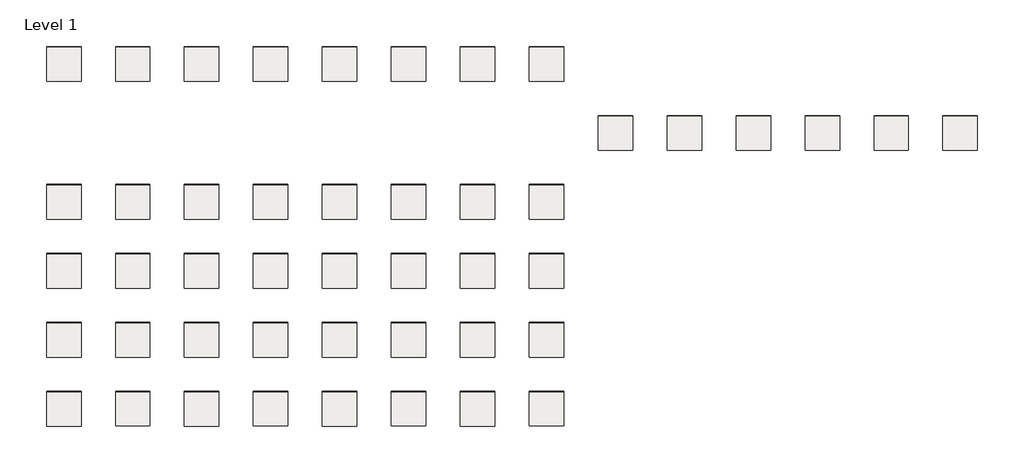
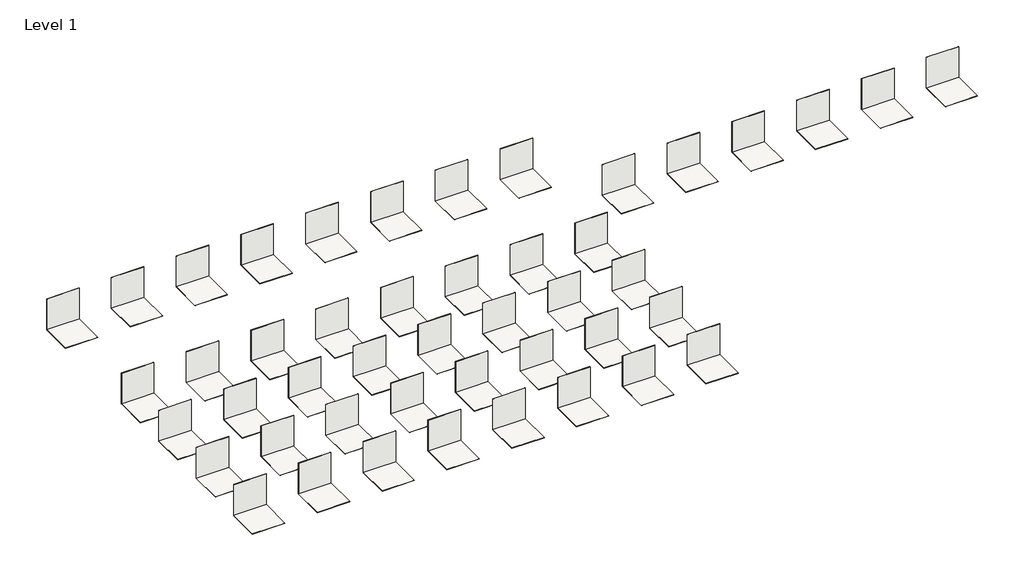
# One storey: 92 coverings.
"""IFC4 building model written with IfcOpenShell, lengths in millimetres."""

from ifc_helpers import new_model, si_unit, frame, origin, origin_with_axes, place, context, project, spatial, polyline, outline, extrude, element, save

model = new_model("IFC4")

# Units and contexts
model_context = context("Model", 3, world=origin())
ifc_project = project(units=[si_unit("LENGTHUNIT", "METRE", prefix="MILLI")], contexts=[model_context])

# Site, building, storey
site = spatial("IfcSite", under=ifc_project)
building = spatial("IfcBuilding", under=site)
storey = spatial("IfcBuildingStorey", under=building, Name="Level 1", Elevation=0.0)

# Coverings
placement = place(None, origin())
element("IfcCovering", 1, ObjectType="REVIGRÉS-LOCUS-BASE-9.7x9.7-SILK-ALLOY", at=placement, inside=storey, context=model_context, shape_type="SweptSolid", body=[
    extrude(outline(polyline([(2948.642714, 3103.8257974), (1948.642714, 3103.8257974), (1948.642714, 3112.3257974), (2948.642714, 3112.3257974), (2948.642714, 3103.8257974)])), origin_with_axes(), (0.0, 0.0, 1.0), 1000.0),
])
element("IfcCovering", 2, ObjectType="REVIGRÉS-LOCUS-BASE-9.7x9.7-SILK-BONE", at=placement, inside=storey, context=model_context, shape_type="SweptSolid", body=[
    extrude(outline(polyline([(6948.642714, 3103.8257974), (5948.642714, 3103.8257974), (5948.642714, 3112.3257974), (6948.642714, 3112.3257974), (6948.642714, 3103.8257974)])), origin_with_axes(), (0.0, 0.0, 1.0), 1000.0),
])
element("IfcCovering", 3, ObjectType="REVIGRÉS-LOCUS-BASE-9.7x9.7-SILK-GRIS", at=placement, inside=storey, context=model_context, shape_type="SweptSolid", body=[
    extrude(outline(polyline([(10948.642714, 3103.8257974), (9948.642714, 3103.8257974), (9948.642714, 3112.3257974), (10948.642714, 3112.3257974), (10948.642714, 3103.8257974)])), origin_with_axes(), (0.0, 0.0, 1.0), 1000.0),
])
element("IfcCovering", 4, ObjectType="REVIGRÉS-LOCUS-BASE-9.7x9.7-SILK-SMOG", at=placement, inside=storey, context=model_context, shape_type="SweptSolid", body=[
    extrude(outline(polyline([(14948.642714, 3103.8257974), (13948.642714, 3103.8257974), (13948.642714, 3112.3257974), (14948.642714, 3112.3257974), (14948.642714, 3103.8257974)])), origin_with_axes(), (0.0, 0.0, 1.0), 1000.0),
])
element("IfcCovering", 5, ObjectType="REVIGRÉS-LOCUS-BASE-9.7x9.7-SOFT GRIP-ALLOY", at=placement, inside=storey, context=model_context, shape_type="SweptSolid", body=[
    extrude(outline(polyline([(4948.642714, 3108.0757974), (4948.642714, 2108.0757974), (3948.642714, 2108.0757974), (3948.642714, 3108.0757974), (4948.642714, 3108.0757974)])), frame((0.0, 0.0, -8.5), z_axis=(0.0, 0.0, 1.0), x_axis=(1.0, 0.0, 0.0)), (0.0, 0.0, 1.0), 8.5),
])
element("IfcCovering", 6, ObjectType="REVIGRÉS-LOCUS-BASE-9.7x9.7-SOFT GRIP-ALLOY", at=placement, inside=storey, context=model_context, shape_type="SweptSolid", body=[
    extrude(outline(polyline([(4948.642714, 3103.8257974), (3948.642714, 3103.8257974), (3948.642714, 3112.3257974), (4948.642714, 3112.3257974), (4948.642714, 3103.8257974)])), origin_with_axes(), (0.0, 0.0, 1.0), 1000.0),
])
element("IfcCovering", 7, ObjectType="REVIGRÉS-LOCUS-BASE-9.7x9.7-SOFT GRIP-BONE", at=placement, inside=storey, context=model_context, shape_type="SweptSolid", body=[
    extrude(outline(polyline([(8948.642714, 3108.0757974), (8948.642714, 2108.0757974), (7948.642714, 2108.0757974), (7948.642714, 3108.0757974), (8948.642714, 3108.0757974)])), frame((0.0, 0.0, -8.5), z_axis=(0.0, 0.0, 1.0), x_axis=(1.0, 0.0, 0.0)), (0.0, 0.0, 1.0), 8.5),
])
element("IfcCovering", 8, ObjectType="REVIGRÉS-LOCUS-BASE-9.7x9.7-SOFT GRIP-BONE", at=placement, inside=storey, context=model_context, shape_type="SweptSolid", body=[
    extrude(outline(polyline([(8948.642714, 3103.8257974), (7948.642714, 3103.8257974), (7948.642714, 3112.3257974), (8948.642714, 3112.3257974), (8948.642714, 3103.8257974)])), origin_with_axes(), (0.0, 0.0, 1.0), 1000.0),
])
element("IfcCovering", 9, ObjectType="REVIGRÉS-LOCUS-BASE-9.7x9.7-SOFT GRIP-GRIS", at=placement, inside=storey, context=model_context, shape_type="SweptSolid", body=[
    extrude(outline(polyline([(12948.642714, 3108.0757974), (12948.642714, 2108.0757974), (11948.642714, 2108.0757974), (11948.642714, 3108.0757974), (12948.642714, 3108.0757974)])), frame((0.0, 0.0, -8.5), z_axis=(0.0, 0.0, 1.0), x_axis=(1.0, 0.0, 0.0)), (0.0, 0.0, 1.0), 8.5),
])
element("IfcCovering", 10, ObjectType="REVIGRÉS-LOCUS-BASE-9.7x9.7-SOFT GRIP-GRIS", at=placement, inside=storey, context=model_context, shape_type="SweptSolid", body=[
    extrude(outline(polyline([(12948.642714, 3103.8257974), (11948.642714, 3103.8257974), (11948.642714, 3112.3257974), (12948.642714, 3112.3257974), (12948.642714, 3103.8257974)])), origin_with_axes(), (0.0, 0.0, 1.0), 1000.0),
])
element("IfcCovering", 11, ObjectType="REVIGRÉS-LOCUS-BASE-9.7x9.7-SOFT GRIP-SMOG", at=placement, inside=storey, context=model_context, shape_type="SweptSolid", body=[
    extrude(outline(polyline([(16948.642714, 3108.0757974), (16948.642714, 2108.0757974), (15948.642714, 2108.0757974), (15948.642714, 3108.0757974), (16948.642714, 3108.0757974)])), frame((0.0, 0.0, -8.5), z_axis=(0.0, 0.0, 1.0), x_axis=(1.0, 0.0, 0.0)), (0.0, 0.0, 1.0), 8.5),
])
element("IfcCovering", 12, ObjectType="REVIGRÉS-LOCUS-BASE-9.7x9.7-SOFT GRIP-SMOG", at=placement, inside=storey, context=model_context, shape_type="SweptSolid", body=[
    extrude(outline(polyline([(16948.642714, 3103.8257974), (15948.642714, 3103.8257974), (15948.642714, 3112.3257974), (16948.642714, 3112.3257974), (16948.642714, 3103.8257974)])), origin_with_axes(), (0.0, 0.0, 1.0), 1000.0),
])
element("IfcCovering", 13, ObjectType="REVIGRÉS-LOCUS-BASE-9.7x9.7-SILK-ALLOY", at=placement, inside=storey, context=model_context, shape_type="SweptSolid", body=[
    extrude(outline(polyline([(2948.642714, 3103.8257974), (2948.642714, 2103.8257974), (1948.642714, 2103.8257974), (1948.642714, 3103.8257974), (2948.642714, 3103.8257974)])), frame((0.0, 0.0, -8.5), z_axis=(0.0, 0.0, 1.0), x_axis=(1.0, 0.0, 0.0)), (0.0, 0.0, 1.0), 8.5),
])
element("IfcCovering", 14, ObjectType="REVIGRÉS-LOCUS-BASE-9.7x9.7-SILK-BONE", at=placement, inside=storey, context=model_context, shape_type="SweptSolid", body=[
    extrude(outline(polyline([(6948.642714, 3103.8257974), (6948.642714, 2103.8257974), (5948.642714, 2103.8257974), (5948.642714, 3103.8257974), (6948.642714, 3103.8257974)])), frame((0.0, 0.0, -8.5), z_axis=(0.0, 0.0, 1.0), x_axis=(1.0, 0.0, 0.0)), (0.0, 0.0, 1.0), 8.5),
])
element("IfcCovering", 15, ObjectType="REVIGRÉS-LOCUS-BASE-9.7x9.7-SILK-GRIS", at=placement, inside=storey, context=model_context, shape_type="SweptSolid", body=[
    extrude(outline(polyline([(10948.642714, 3103.8257974), (10948.642714, 2103.8257974), (9948.642714, 2103.8257974), (9948.642714, 3103.8257974), (10948.642714, 3103.8257974)])), frame((0.0, 0.0, -8.5), z_axis=(0.0, 0.0, 1.0), x_axis=(1.0, 0.0, 0.0)), (0.0, 0.0, 1.0), 8.5),
])
element("IfcCovering", 16, ObjectType="REVIGRÉS-LOCUS-BASE-9.7x9.7-SILK-SMOG", at=placement, inside=storey, context=model_context, shape_type="SweptSolid", body=[
    extrude(outline(polyline([(14948.642714, 3103.8257974), (14948.642714, 2103.8257974), (13948.642714, 2103.8257974), (13948.642714, 3103.8257974), (14948.642714, 3103.8257974)])), frame((0.0, 0.0, -8.5), z_axis=(0.0, 0.0, 1.0), x_axis=(1.0, 0.0, 0.0)), (0.0, 0.0, 1.0), 8.5),
])
element("IfcCovering", 17, ObjectType="REVIGRÉS-LOCUS-BASE-29.5x59.2-SILK-ALLOY", at=placement, inside=storey, context=model_context, shape_type="SweptSolid", body=[
    extrude(outline(polyline([(2948.642714, -896.1742026), (1948.642714, -896.1742026), (1948.642714, -887.6742026), (2948.642714, -887.6742026), (2948.642714, -896.1742026)])), origin_with_axes(), (0.0, 0.0, 1.0), 1000.0),
])
element("IfcCovering", 18, ObjectType="REVIGRÉS-LOCUS-BASE-29.5x59.2-SOFT GRIP-ALLOY", at=placement, inside=storey, context=model_context, shape_type="SweptSolid", body=[
    extrude(outline(polyline([(4948.642714, -891.9242026), (4948.642714, -1891.9242026), (3948.642714, -1891.9242026), (3948.642714, -891.9242026), (4948.642714, -891.9242026)])), frame((0.0, 0.0, -8.5), z_axis=(0.0, 0.0, 1.0), x_axis=(1.0, 0.0, 0.0)), (0.0, 0.0, 1.0), 8.5),
])
element("IfcCovering", 19, ObjectType="REVIGRÉS-LOCUS-BASE-29.5x59.2-SOFT GRIP-ALLOY", at=placement, inside=storey, context=model_context, shape_type="SweptSolid", body=[
    extrude(outline(polyline([(4948.642714, -896.1742026), (3948.642714, -896.1742026), (3948.642714, -887.6742026), (4948.642714, -887.6742026), (4948.642714, -896.1742026)])), origin_with_axes(), (0.0, 0.0, 1.0), 1000.0),
])
element("IfcCovering", 20, ObjectType="REVIGRÉS-LOCUS-BASE-29.5x59.2-SILK-ALLOY", at=placement, inside=storey, context=model_context, shape_type="SweptSolid", body=[
    extrude(outline(polyline([(2948.642714, -896.1742026), (2948.642714, -1896.1742026), (1948.642714, -1896.1742026), (1948.642714, -896.1742026), (2948.642714, -896.1742026)])), frame((0.0, 0.0, -8.5), z_axis=(0.0, 0.0, 1.0), x_axis=(1.0, 0.0, 0.0)), (0.0, 0.0, 1.0), 8.5),
])
element("IfcCovering", 21, ObjectType="REVIGRÉS-LOCUS-BASE-59.2x59.2-SILK-ALLOY", at=placement, inside=storey, context=model_context, shape_type="SweptSolid", body=[
    extrude(outline(polyline([(2948.642714, -2896.1742026), (1948.642714, -2896.1742026), (1948.642714, -2887.6742026), (2948.642714, -2887.6742026), (2948.642714, -2896.1742026)])), origin_with_axes(), (0.0, 0.0, 1.0), 1000.0),
])
element("IfcCovering", 22, ObjectType="REVIGRÉS-LOCUS-BASE-59.2x59.2-SOFT GRIP-ALLOY", at=placement, inside=storey, context=model_context, shape_type="SweptSolid", body=[
    extrude(outline(polyline([(4948.642714, -2891.9242026), (4948.642714, -3891.9242026), (3948.642714, -3891.9242026), (3948.642714, -2891.9242026), (4948.642714, -2891.9242026)])), frame((0.0, 0.0, -8.5), z_axis=(0.0, 0.0, 1.0), x_axis=(1.0, 0.0, 0.0)), (0.0, 0.0, 1.0), 8.5),
])
element("IfcCovering", 23, ObjectType="REVIGRÉS-LOCUS-BASE-59.2x59.2-SOFT GRIP-ALLOY", at=placement, inside=storey, context=model_context, shape_type="SweptSolid", body=[
    extrude(outline(polyline([(4948.642714, -2896.1742026), (3948.642714, -2896.1742026), (3948.642714, -2887.6742026), (4948.642714, -2887.6742026), (4948.642714, -2896.1742026)])), origin_with_axes(), (0.0, 0.0, 1.0), 1000.0),
])
element("IfcCovering", 24, ObjectType="REVIGRÉS-LOCUS-BASE-59.2x59.2-SILK-ALLOY", at=placement, inside=storey, context=model_context, shape_type="SweptSolid", body=[
    extrude(outline(polyline([(2948.642714, -2896.1742026), (2948.642714, -3896.1742026), (1948.642714, -3896.1742026), (1948.642714, -2896.1742026), (2948.642714, -2896.1742026)])), frame((0.0, 0.0, -8.5), z_axis=(0.0, 0.0, 1.0), x_axis=(1.0, 0.0, 0.0)), (0.0, 0.0, 1.0), 8.5),
])
element("IfcCovering", 25, ObjectType="REVIGRÉS-LOCUS-BASE-44.35x88.9-SILK-ALLOY", at=placement, inside=storey, context=model_context, shape_type="SweptSolid", body=[
    extrude(outline(polyline([(2948.642714, -4897.1742026), (1948.642714, -4897.1742026), (1948.642714, -4886.6742026), (2948.642714, -4886.6742026), (2948.642714, -4897.1742026)])), origin_with_axes(), (0.0, 0.0, 1.0), 1000.0),
])
element("IfcCovering", 26, ObjectType="REVIGRÉS-LOCUS-BASE-44.35x88.9-SOFT GRIP-ALLOY", at=placement, inside=storey, context=model_context, shape_type="SweptSolid", body=[
    extrude(outline(polyline([(4948.642714, -4891.9242026), (4948.642714, -5891.9242026), (3948.642714, -5891.9242026), (3948.642714, -4891.9242026), (4948.642714, -4891.9242026)])), frame((0.0, 0.0, -10.5), z_axis=(0.0, 0.0, 1.0), x_axis=(1.0, 0.0, 0.0)), (0.0, 0.0, 1.0), 10.5),
])
element("IfcCovering", 27, ObjectType="REVIGRÉS-LOCUS-BASE-44.35x88.9-SOFT GRIP-ALLOY", at=placement, inside=storey, context=model_context, shape_type="SweptSolid", body=[
    extrude(outline(polyline([(4948.642714, -4897.1742026), (3948.642714, -4897.1742026), (3948.642714, -4886.6742026), (4948.642714, -4886.6742026), (4948.642714, -4897.1742026)])), origin_with_axes(), (0.0, 0.0, 1.0), 1000.0),
])
element("IfcCovering", 28, ObjectType="REVIGRÉS-LOCUS-BASE-44.35x88.9-SILK-ALLOY", at=placement, inside=storey, context=model_context, shape_type="SweptSolid", body=[
    extrude(outline(polyline([(2948.642714, -4897.1742026), (2948.642714, -5896.1742026), (1948.642714, -5896.1742026), (1948.642714, -4897.1742026), (2948.642714, -4897.1742026)])), frame((0.0, 0.0, -10.5), z_axis=(0.0, 0.0, 1.0), x_axis=(1.0, 0.0, 0.0)), (0.0, 0.0, 1.0), 10.5),
])
element("IfcCovering", 29, ObjectType="REVIGRÉS-LOCUS-BASE-29.5x59.2-SILK-BONE", at=placement, inside=storey, context=model_context, shape_type="SweptSolid", body=[
    extrude(outline(polyline([(6948.642714, -896.1742026), (5948.642714, -896.1742026), (5948.642714, -887.6742026), (6948.642714, -887.6742026), (6948.642714, -896.1742026)])), origin_with_axes(), (0.0, 0.0, 1.0), 1000.0),
])
element("IfcCovering", 30, ObjectType="REVIGRÉS-LOCUS-BASE-29.5x59.20-SOFT GRIP-BONE", at=placement, inside=storey, context=model_context, shape_type="SweptSolid", body=[
    extrude(outline(polyline([(8948.642714, -891.9242026), (8948.642714, -1891.9242026), (7948.642714, -1891.9242026), (7948.642714, -891.9242026), (8948.642714, -891.9242026)])), frame((0.0, 0.0, -8.5), z_axis=(0.0, 0.0, 1.0), x_axis=(1.0, 0.0, 0.0)), (0.0, 0.0, 1.0), 8.5),
])
element("IfcCovering", 31, ObjectType="REVIGRÉS-LOCUS-BASE-29.5x59.2-SOFT GRIP-BONE", at=placement, inside=storey, context=model_context, shape_type="SweptSolid", body=[
    extrude(outline(polyline([(8948.642714, -896.1742026), (7948.642714, -896.1742026), (7948.642714, -887.6742026), (8948.642714, -887.6742026), (8948.642714, -896.1742026)])), origin_with_axes(), (0.0, 0.0, 1.0), 1000.0),
])
element("IfcCovering", 32, ObjectType="REVIGRÉS-LOCUS-BASE-29.5x59.2-SILK-BONE", at=placement, inside=storey, context=model_context, shape_type="SweptSolid", body=[
    extrude(outline(polyline([(6948.642714, -896.1742026), (6948.642714, -1896.1742026), (5948.642714, -1896.1742026), (5948.642714, -896.1742026), (6948.642714, -896.1742026)])), frame((0.0, 0.0, -8.5), z_axis=(0.0, 0.0, 1.0), x_axis=(1.0, 0.0, 0.0)), (0.0, 0.0, 1.0), 8.5),
])
element("IfcCovering", 33, ObjectType="REVIGRÉS-LOCUS-BASE-59.2x59.2-SILK-BONE", at=placement, inside=storey, context=model_context, shape_type="SweptSolid", body=[
    extrude(outline(polyline([(6948.642714, -2896.1742026), (5948.642714, -2896.1742026), (5948.642714, -2887.6742026), (6948.642714, -2887.6742026), (6948.642714, -2896.1742026)])), origin_with_axes(), (0.0, 0.0, 1.0), 1000.0),
])
element("IfcCovering", 34, ObjectType="REVIGRÉS-LOCUS-BASE-59.2x59.2-SOFT GRIP-BONE", at=placement, inside=storey, context=model_context, shape_type="SweptSolid", body=[
    extrude(outline(polyline([(8948.642714, -2891.9242026), (8948.642714, -3891.9242026), (7948.642714, -3891.9242026), (7948.642714, -2891.9242026), (8948.642714, -2891.9242026)])), frame((0.0, 0.0, -8.5), z_axis=(0.0, 0.0, 1.0), x_axis=(1.0, 0.0, 0.0)), (0.0, 0.0, 1.0), 8.5),
])
element("IfcCovering", 35, ObjectType="REVIGRÉS-LOCUS-BASE-59.2x59.2-SOFT GRIP-BONE", at=placement, inside=storey, context=model_context, shape_type="SweptSolid", body=[
    extrude(outline(polyline([(8948.642714, -2896.1742026), (7948.642714, -2896.1742026), (7948.642714, -2887.6742026), (8948.642714, -2887.6742026), (8948.642714, -2896.1742026)])), origin_with_axes(), (0.0, 0.0, 1.0), 1000.0),
])
element("IfcCovering", 36, ObjectType="REVIGRÉS-LOCUS-BASE-59.2x59.2-SILK-BONE", at=placement, inside=storey, context=model_context, shape_type="SweptSolid", body=[
    extrude(outline(polyline([(6948.642714, -2896.1742026), (6948.642714, -3896.1742026), (5948.642714, -3896.1742026), (5948.642714, -2896.1742026), (6948.642714, -2896.1742026)])), frame((0.0, 0.0, -8.5), z_axis=(0.0, 0.0, 1.0), x_axis=(1.0, 0.0, 0.0)), (0.0, 0.0, 1.0), 8.5),
])
element("IfcCovering", 37, ObjectType="REVIGRÉS-LOCUS-BASE-44.35x88.9-SILK-BONE", at=placement, inside=storey, context=model_context, shape_type="SweptSolid", body=[
    extrude(outline(polyline([(6948.642714, -4897.1742026), (5948.642714, -4897.1742026), (5948.642714, -4886.6742026), (6948.642714, -4886.6742026), (6948.642714, -4897.1742026)])), origin_with_axes(), (0.0, 0.0, 1.0), 1000.0),
])
element("IfcCovering", 38, ObjectType="REVIGRÉS-LOCUS-BASE-44.35x88.9-SOFT GRIP-BONE", at=placement, inside=storey, context=model_context, shape_type="SweptSolid", body=[
    extrude(outline(polyline([(8948.642714, -4891.9242026), (8948.642714, -5891.9242026), (7948.642714, -5891.9242026), (7948.642714, -4891.9242026), (8948.642714, -4891.9242026)])), frame((0.0, 0.0, -10.5), z_axis=(0.0, 0.0, 1.0), x_axis=(1.0, 0.0, 0.0)), (0.0, 0.0, 1.0), 10.5),
])
element("IfcCovering", 39, ObjectType="REVIGRÉS-LOCUS-BASE-44.35x88.9-SOFT GRIP-BONE", at=placement, inside=storey, context=model_context, shape_type="SweptSolid", body=[
    extrude(outline(polyline([(8948.642714, -4897.1742026), (7948.642714, -4897.1742026), (7948.642714, -4886.6742026), (8948.642714, -4886.6742026), (8948.642714, -4897.1742026)])), origin_with_axes(), (0.0, 0.0, 1.0), 1000.0),
])
element("IfcCovering", 40, ObjectType="REVIGRÉS-LOCUS-BASE-44.35x88.9-SILK-BONE", at=placement, inside=storey, context=model_context, shape_type="SweptSolid", body=[
    extrude(outline(polyline([(6948.642714, -4897.1742026), (6948.642714, -5896.1742026), (5948.642714, -5896.1742026), (5948.642714, -4897.1742026), (6948.642714, -4897.1742026)])), frame((0.0, 0.0, -10.5), z_axis=(0.0, 0.0, 1.0), x_axis=(1.0, 0.0, 0.0)), (0.0, 0.0, 1.0), 10.5),
])
element("IfcCovering", 41, ObjectType="REVIGRÉS-LOCUS-BASE-29.5x59.2-SILK-GRIS", at=placement, inside=storey, context=model_context, shape_type="SweptSolid", body=[
    extrude(outline(polyline([(10948.642714, -896.1742026), (9948.642714, -896.1742026), (9948.642714, -887.6742026), (10948.642714, -887.6742026), (10948.642714, -896.1742026)])), origin_with_axes(), (0.0, 0.0, 1.0), 1000.0),
])
element("IfcCovering", 42, ObjectType="REVIGRÉS-LOCUS-BASE-29.5x59.20-SOFT GRIP-GRIS", at=placement, inside=storey, context=model_context, shape_type="SweptSolid", body=[
    extrude(outline(polyline([(12948.642714, -891.9242026), (12948.642714, -1891.9242026), (11948.642714, -1891.9242026), (11948.642714, -891.9242026), (12948.642714, -891.9242026)])), frame((0.0, 0.0, -8.5), z_axis=(0.0, 0.0, 1.0), x_axis=(1.0, 0.0, 0.0)), (0.0, 0.0, 1.0), 8.5),
])
element("IfcCovering", 43, ObjectType="REVIGRÉS-LOCUS-BASE-29.5x59.2-SOFT GRIP-GRIS", at=placement, inside=storey, context=model_context, shape_type="SweptSolid", body=[
    extrude(outline(polyline([(12948.642714, -896.1742026), (11948.642714, -896.1742026), (11948.642714, -887.6742026), (12948.642714, -887.6742026), (12948.642714, -896.1742026)])), origin_with_axes(), (0.0, 0.0, 1.0), 1000.0),
])
element("IfcCovering", 44, ObjectType="REVIGRÉS-LOCUS-BASE-29.5x59.2-SILK-GRIS", at=placement, inside=storey, context=model_context, shape_type="SweptSolid", body=[
    extrude(outline(polyline([(10948.642714, -896.1742026), (10948.642714, -1896.1742026), (9948.642714, -1896.1742026), (9948.642714, -896.1742026), (10948.642714, -896.1742026)])), frame((0.0, 0.0, -8.5), z_axis=(0.0, 0.0, 1.0), x_axis=(1.0, 0.0, 0.0)), (0.0, 0.0, 1.0), 8.5),
])
element("IfcCovering", 45, ObjectType="REVIGRÉS-LOCUS-BASE-59.2x59.2-SILK-GRIS", at=placement, inside=storey, context=model_context, shape_type="SweptSolid", body=[
    extrude(outline(polyline([(10948.642714, -2896.1742026), (9948.642714, -2896.1742026), (9948.642714, -2887.6742026), (10948.642714, -2887.6742026), (10948.642714, -2896.1742026)])), origin_with_axes(), (0.0, 0.0, 1.0), 1000.0),
])
element("IfcCovering", 46, ObjectType="REVIGRÉS-LOCUS-BASE-59.2x59.2-SOFT GRIP-GRIS", at=placement, inside=storey, context=model_context, shape_type="SweptSolid", body=[
    extrude(outline(polyline([(12948.642714, -2891.9242026), (12948.642714, -3891.9242026), (11948.642714, -3891.9242026), (11948.642714, -2891.9242026), (12948.642714, -2891.9242026)])), frame((0.0, 0.0, -8.5), z_axis=(0.0, 0.0, 1.0), x_axis=(1.0, 0.0, 0.0)), (0.0, 0.0, 1.0), 8.5),
])
element("IfcCovering", 47, ObjectType="REVIGRÉS-LOCUS-BASE-59.2x59.2-SOFT GRIP-GRIS", at=placement, inside=storey, context=model_context, shape_type="SweptSolid", body=[
    extrude(outline(polyline([(12948.642714, -2896.1742026), (11948.642714, -2896.1742026), (11948.642714, -2887.6742026), (12948.642714, -2887.6742026), (12948.642714, -2896.1742026)])), origin_with_axes(), (0.0, 0.0, 1.0), 1000.0),
])
element("IfcCovering", 48, ObjectType="REVIGRÉS-LOCUS-BASE-59.2x59.2-SILK-GRIS", at=placement, inside=storey, context=model_context, shape_type="SweptSolid", body=[
    extrude(outline(polyline([(10948.642714, -2896.1742026), (10948.642714, -3896.1742026), (9948.642714, -3896.1742026), (9948.642714, -2896.1742026), (10948.642714, -2896.1742026)])), frame((0.0, 0.0, -8.5), z_axis=(0.0, 0.0, 1.0), x_axis=(1.0, 0.0, 0.0)), (0.0, 0.0, 1.0), 8.5),
])
element("IfcCovering", 49, ObjectType="REVIGRÉS-LOCUS-BASE-44.35x88.9-SILK-GRIS", at=placement, inside=storey, context=model_context, shape_type="SweptSolid", body=[
    extrude(outline(polyline([(10948.642714, -4897.1742026), (9948.642714, -4897.1742026), (9948.642714, -4886.6742026), (10948.642714, -4886.6742026), (10948.642714, -4897.1742026)])), origin_with_axes(), (0.0, 0.0, 1.0), 1000.0),
])
element("IfcCovering", 50, ObjectType="REVIGRÉS-LOCUS-BASE-44.35x88.9-SOFT GRIP-GRIS", at=placement, inside=storey, context=model_context, shape_type="SweptSolid", body=[
    extrude(outline(polyline([(12948.642714, -4891.9242026), (12948.642714, -5891.9242026), (11948.642714, -5891.9242026), (11948.642714, -4891.9242026), (12948.642714, -4891.9242026)])), frame((0.0, 0.0, -10.5), z_axis=(0.0, 0.0, 1.0), x_axis=(1.0, 0.0, 0.0)), (0.0, 0.0, 1.0), 10.5),
])
element("IfcCovering", 51, ObjectType="REVIGRÉS-LOCUS-BASE-44.35x88.9-SOFT GRIP-GRIS", at=placement, inside=storey, context=model_context, shape_type="SweptSolid", body=[
    extrude(outline(polyline([(12948.642714, -4897.1742026), (11948.642714, -4897.1742026), (11948.642714, -4886.6742026), (12948.642714, -4886.6742026), (12948.642714, -4897.1742026)])), origin_with_axes(), (0.0, 0.0, 1.0), 1000.0),
])
element("IfcCovering", 52, ObjectType="REVIGRÉS-LOCUS-BASE-44.35x88.9-SILK-GRIS", at=placement, inside=storey, context=model_context, shape_type="SweptSolid", body=[
    extrude(outline(polyline([(10948.642714, -4897.1742026), (10948.642714, -5896.1742026), (9948.642714, -5896.1742026), (9948.642714, -4897.1742026), (10948.642714, -4897.1742026)])), frame((0.0, 0.0, -10.5), z_axis=(0.0, 0.0, 1.0), x_axis=(1.0, 0.0, 0.0)), (0.0, 0.0, 1.0), 10.5),
])
element("IfcCovering", 53, ObjectType="REVIGRÉS-LOCUS-BASE-29.5x59.2-SILK-SMOG", at=placement, inside=storey, context=model_context, shape_type="SweptSolid", body=[
    extrude(outline(polyline([(14948.642714, -896.1742026), (13948.642714, -896.1742026), (13948.642714, -887.6742026), (14948.642714, -887.6742026), (14948.642714, -896.1742026)])), origin_with_axes(), (0.0, 0.0, 1.0), 1000.0),
])
element("IfcCovering", 54, ObjectType="REVIGRÉS-LOCUS-BASE-29.5x59.2-SOFT GRIP-SMOG", at=placement, inside=storey, context=model_context, shape_type="SweptSolid", body=[
    extrude(outline(polyline([(16948.642714, -891.9242026), (16948.642714, -1891.9242026), (15948.642714, -1891.9242026), (15948.642714, -891.9242026), (16948.642714, -891.9242026)])), frame((0.0, 0.0, -8.5), z_axis=(0.0, 0.0, 1.0), x_axis=(1.0, 0.0, 0.0)), (0.0, 0.0, 1.0), 8.5),
])
element("IfcCovering", 55, ObjectType="REVIGRÉS-LOCUS-BASE-29.5x59.2-SOFT GRIP-SMOG", at=placement, inside=storey, context=model_context, shape_type="SweptSolid", body=[
    extrude(outline(polyline([(16948.642714, -896.1742026), (15948.642714, -896.1742026), (15948.642714, -887.6742026), (16948.642714, -887.6742026), (16948.642714, -896.1742026)])), origin_with_axes(), (0.0, 0.0, 1.0), 1000.0),
])
element("IfcCovering", 56, ObjectType="REVIGRÉS-LOCUS-BASE-29.5x59.2-SILK-SMOG", at=placement, inside=storey, context=model_context, shape_type="SweptSolid", body=[
    extrude(outline(polyline([(14948.642714, -896.1742026), (14948.642714, -1896.1742026), (13948.642714, -1896.1742026), (13948.642714, -896.1742026), (14948.642714, -896.1742026)])), frame((0.0, 0.0, -8.5), z_axis=(0.0, 0.0, 1.0), x_axis=(1.0, 0.0, 0.0)), (0.0, 0.0, 1.0), 8.5),
])
element("IfcCovering", 57, ObjectType="REVIGRÉS-LOCUS-BASE-59.2x59.2-SILK-SMOG", at=placement, inside=storey, context=model_context, shape_type="SweptSolid", body=[
    extrude(outline(polyline([(14948.642714, -2896.1742026), (13948.642714, -2896.1742026), (13948.642714, -2887.6742026), (14948.642714, -2887.6742026), (14948.642714, -2896.1742026)])), origin_with_axes(), (0.0, 0.0, 1.0), 1000.0),
])
element("IfcCovering", 58, ObjectType="REVIGRÉS-LOCUS-BASE-59.2x59.2-SOFT GRIP-SMOG", at=placement, inside=storey, context=model_context, shape_type="SweptSolid", body=[
    extrude(outline(polyline([(16948.642714, -2891.9242026), (16948.642714, -3891.9242026), (15948.642714, -3891.9242026), (15948.642714, -2891.9242026), (16948.642714, -2891.9242026)])), frame((0.0, 0.0, -8.5), z_axis=(0.0, 0.0, 1.0), x_axis=(1.0, 0.0, 0.0)), (0.0, 0.0, 1.0), 8.5),
])
element("IfcCovering", 59, ObjectType="REVIGRÉS-LOCUS-BASE-59.2x59.2-SOFT GRIP-SMOG", at=placement, inside=storey, context=model_context, shape_type="SweptSolid", body=[
    extrude(outline(polyline([(16948.642714, -2896.1742026), (15948.642714, -2896.1742026), (15948.642714, -2887.6742026), (16948.642714, -2887.6742026), (16948.642714, -2896.1742026)])), origin_with_axes(), (0.0, 0.0, 1.0), 1000.0),
])
element("IfcCovering", 60, ObjectType="REVIGRÉS-LOCUS-BASE-59.2x59.2-SILK-SMOG", at=placement, inside=storey, context=model_context, shape_type="SweptSolid", body=[
    extrude(outline(polyline([(14948.642714, -2896.1742026), (14948.642714, -3896.1742026), (13948.642714, -3896.1742026), (13948.642714, -2896.1742026), (14948.642714, -2896.1742026)])), frame((0.0, 0.0, -8.5), z_axis=(0.0, 0.0, 1.0), x_axis=(1.0, 0.0, 0.0)), (0.0, 0.0, 1.0), 8.5),
])
element("IfcCovering", 61, ObjectType="REVIGRÉS-LOCUS-BASE-44.35x88.9-SILK-SMOG", at=placement, inside=storey, context=model_context, shape_type="SweptSolid", body=[
    extrude(outline(polyline([(14948.642714, -4897.1742026), (13948.642714, -4897.1742026), (13948.642714, -4886.6742026), (14948.642714, -4886.6742026), (14948.642714, -4897.1742026)])), origin_with_axes(), (0.0, 0.0, 1.0), 1000.0),
])
element("IfcCovering", 62, ObjectType="REVIGRÉS-LOCUS-BASE-44.35x88.9-SOFT GRIP-SMOG", at=placement, inside=storey, context=model_context, shape_type="SweptSolid", body=[
    extrude(outline(polyline([(16948.642714, -4891.9242026), (16948.642714, -5891.9242026), (15948.642714, -5891.9242026), (15948.642714, -4891.9242026), (16948.642714, -4891.9242026)])), frame((0.0, 0.0, -10.5), z_axis=(0.0, 0.0, 1.0), x_axis=(1.0, 0.0, 0.0)), (0.0, 0.0, 1.0), 10.5),
])
element("IfcCovering", 63, ObjectType="REVIGRÉS-LOCUS-BASE-44.35x88.9-SOFT GRIP-SMOG", at=placement, inside=storey, context=model_context, shape_type="SweptSolid", body=[
    extrude(outline(polyline([(16948.642714, -4897.1742026), (15948.642714, -4897.1742026), (15948.642714, -4886.6742026), (16948.642714, -4886.6742026), (16948.642714, -4897.1742026)])), origin_with_axes(), (0.0, 0.0, 1.0), 1000.0),
])
element("IfcCovering", 64, ObjectType="REVIGRÉS-LOCUS-BASE-44.35x88.9-SILK-SMOG", at=placement, inside=storey, context=model_context, shape_type="SweptSolid", body=[
    extrude(outline(polyline([(14948.642714, -4897.1742026), (14948.642714, -5896.1742026), (13948.642714, -5896.1742026), (13948.642714, -4897.1742026), (14948.642714, -4897.1742026)])), frame((0.0, 0.0, -10.5), z_axis=(0.0, 0.0, 1.0), x_axis=(1.0, 0.0, 0.0)), (0.0, 0.0, 1.0), 10.5),
])
element("IfcCovering", 65, ObjectType="REVIGRÉS-LOCUS-BASE-29.5x29.5-SILK-QUILT BONE", at=placement, inside=storey, context=model_context, shape_type="SweptSolid", body=[
    extrude(outline(polyline([(18948.642714, 1103.8257974), (17948.642714, 1103.8257974), (17948.642714, 1112.3257974), (18948.642714, 1112.3257974), (18948.642714, 1103.8257974)])), origin_with_axes(), (0.0, 0.0, 1.0), 1000.0),
])
element("IfcCovering", 66, ObjectType="REVIGRÉS-LOCUS-BASE-29.5x29.5-SILK-QUILT GREEN", at=placement, inside=storey, context=model_context, shape_type="SweptSolid", body=[
    extrude(outline(polyline([(22948.642714, 1103.8257974), (21948.642714, 1103.8257974), (21948.642714, 1112.3257974), (22948.642714, 1112.3257974), (22948.642714, 1103.8257974)])), origin_with_axes(), (0.0, 0.0, 1.0), 1000.0),
])
element("IfcCovering", 67, ObjectType="REVIGRÉS-LOCUS-BASE-29.5x29.5-SILK-QUILT GRIS", at=placement, inside=storey, context=model_context, shape_type="SweptSolid", body=[
    extrude(outline(polyline([(26948.642714, 1103.8257974), (25948.642714, 1103.8257974), (25948.642714, 1112.3257974), (26948.642714, 1112.3257974), (26948.642714, 1103.8257974)])), origin_with_axes(), (0.0, 0.0, 1.0), 1000.0),
])
element("IfcCovering", 68, ObjectType="REVIGRÉS-LOCUS-BASE-29.5x29.5-SOFT GRIP-QUILT BONE", at=placement, inside=storey, context=model_context, shape_type="SweptSolid", body=[
    extrude(outline(polyline([(20948.642714, 1108.0757974), (20948.642714, 108.0757974), (19948.642714, 108.0757974), (19948.642714, 1108.0757974), (20948.642714, 1108.0757974)])), frame((0.0, 0.0, -8.5), z_axis=(0.0, 0.0, 1.0), x_axis=(1.0, 0.0, 0.0)), (0.0, 0.0, 1.0), 8.5),
])
element("IfcCovering", 69, ObjectType="REVIGRÉS-LOCUS-BASE-29.5x29.5-SOFT GRIP-QUILT BONE", at=placement, inside=storey, context=model_context, shape_type="SweptSolid", body=[
    extrude(outline(polyline([(20948.642714, 1103.8257974), (19948.642714, 1103.8257974), (19948.642714, 1112.3257974), (20948.642714, 1112.3257974), (20948.642714, 1103.8257974)])), origin_with_axes(), (0.0, 0.0, 1.0), 1000.0),
])
element("IfcCovering", 70, ObjectType="REVIGRÉS-LOCUS-BASE-29.5x29.5-SOFT GRIP-QUILT GREEN", at=placement, inside=storey, context=model_context, shape_type="SweptSolid", body=[
    extrude(outline(polyline([(24948.642714, 1108.0757974), (24948.642714, 108.0757974), (23948.642714, 108.0757974), (23948.642714, 1108.0757974), (24948.642714, 1108.0757974)])), frame((0.0, 0.0, -8.5), z_axis=(0.0, 0.0, 1.0), x_axis=(1.0, 0.0, 0.0)), (0.0, 0.0, 1.0), 8.5),
])
element("IfcCovering", 71, ObjectType="REVIGRÉS-LOCUS-BASE-29.5x29.5-SOFT GRIP-QUILT GREEN", at=placement, inside=storey, context=model_context, shape_type="SweptSolid", body=[
    extrude(outline(polyline([(24948.642714, 1103.8257974), (23948.642714, 1103.8257974), (23948.642714, 1112.3257974), (24948.642714, 1112.3257974), (24948.642714, 1103.8257974)])), origin_with_axes(), (0.0, 0.0, 1.0), 1000.0),
])
element("IfcCovering", 72, ObjectType="REVIGRÉS-LOCUS-BASE-29.5x29.5-SOFT GRIP-QUILT GRIS", at=placement, inside=storey, context=model_context, shape_type="SweptSolid", body=[
    extrude(outline(polyline([(28948.642714, 1108.0757974), (28948.642714, 108.0757974), (27948.642714, 108.0757974), (27948.642714, 1108.0757974), (28948.642714, 1108.0757974)])), frame((0.0, 0.0, -8.5), z_axis=(0.0, 0.0, 1.0), x_axis=(1.0, 0.0, 0.0)), (0.0, 0.0, 1.0), 8.5),
])
element("IfcCovering", 73, ObjectType="REVIGRÉS-LOCUS-BASE-29.5x29.5-SOFT GRIP-QUILT GRIS", at=placement, inside=storey, context=model_context, shape_type="SweptSolid", body=[
    extrude(outline(polyline([(28948.642714, 1103.8257974), (27948.642714, 1103.8257974), (27948.642714, 1112.3257974), (28948.642714, 1112.3257974), (28948.642714, 1103.8257974)])), origin_with_axes(), (0.0, 0.0, 1.0), 1000.0),
])
element("IfcCovering", 74, ObjectType="REVIGRÉS-LOCUS-BASE-29.5x29.5-SILK-QUILT GREEN", at=placement, inside=storey, context=model_context, shape_type="SweptSolid", body=[
    extrude(outline(polyline([(18948.642714, 1103.8257974), (18948.642714, 103.8257974), (17948.642714, 103.8257974), (17948.642714, 1103.8257974), (18948.642714, 1103.8257974)])), frame((0.0, 0.0, -8.5), z_axis=(0.0, 0.0, 1.0), x_axis=(1.0, 0.0, 0.0)), (0.0, 0.0, 1.0), 8.5),
])
element("IfcCovering", 75, ObjectType="REVIGRÉS-LOCUS-BASE-29.5x29.5-SILK-QUILT GREEN", at=placement, inside=storey, context=model_context, shape_type="SweptSolid", body=[
    extrude(outline(polyline([(22948.642714, 1103.8257974), (22948.642714, 103.8257974), (21948.642714, 103.8257974), (21948.642714, 1103.8257974), (22948.642714, 1103.8257974)])), frame((0.0, 0.0, -8.5), z_axis=(0.0, 0.0, 1.0), x_axis=(1.0, 0.0, 0.0)), (0.0, 0.0, 1.0), 8.5),
])
element("IfcCovering", 76, ObjectType="REVIGRÉS-LOCUS-BASE-29.5x29.5-SILK-QUILT GRIS", at=placement, inside=storey, context=model_context, shape_type="SweptSolid", body=[
    extrude(outline(polyline([(26948.642714, 1103.8257974), (26948.642714, 103.8257974), (25948.642714, 103.8257974), (25948.642714, 1103.8257974), (26948.642714, 1103.8257974)])), frame((0.0, 0.0, -8.5), z_axis=(0.0, 0.0, 1.0), x_axis=(1.0, 0.0, 0.0)), (0.0, 0.0, 1.0), 8.5),
])
element("IfcCovering", 77, ObjectType="REVIGRÉS-LOCUS-BASE-88.9x88.9-SILK-ALLOY", at=placement, inside=storey, context=model_context, shape_type="SweptSolid", body=[
    extrude(outline(polyline([(2948.642714, -6897.1742026), (1948.642714, -6897.1742026), (1948.642714, -6886.6742026), (2948.642714, -6886.6742026), (2948.642714, -6897.1742026)])), origin_with_axes(), (0.0, 0.0, 1.0), 1000.0),
])
element("IfcCovering", 78, ObjectType="REVIGRÉS-LOCUS-BASE-88.9x88.90-SOFT GRIP-ALLOY", at=placement, inside=storey, context=model_context, shape_type="SweptSolid", body=[
    extrude(outline(polyline([(4948.642714, -6891.9242026), (4948.642714, -7891.9242026), (3948.642714, -7891.9242026), (3948.642714, -6891.9242026), (4948.642714, -6891.9242026)])), frame((0.0, 0.0, -10.5), z_axis=(0.0, 0.0, 1.0), x_axis=(1.0, 0.0, 0.0)), (0.0, 0.0, 1.0), 10.5),
])
element("IfcCovering", 79, ObjectType="REVIGRÉS-LOCUS-BASE-88.9x88.9-SOFT GRIP-ALLOY", at=placement, inside=storey, context=model_context, shape_type="SweptSolid", body=[
    extrude(outline(polyline([(4948.642714, -6897.1742026), (3948.642714, -6897.1742026), (3948.642714, -6886.6742026), (4948.642714, -6886.6742026), (4948.642714, -6897.1742026)])), origin_with_axes(), (0.0, 0.0, 1.0), 1000.0),
])
element("IfcCovering", 80, ObjectType="REVIGRÉS-LOCUS-BASE-88.9x88.9-SILK-ALLOY", at=placement, inside=storey, context=model_context, shape_type="SweptSolid", body=[
    extrude(outline(polyline([(2948.642714, -6897.1742026), (2948.642714, -7896.8242026), (1948.642714, -7896.8242026), (1948.642714, -6897.1742026), (2948.642714, -6897.1742026)])), frame((0.0, 0.0, -10.5), z_axis=(0.0, 0.0, 1.0), x_axis=(1.0, 0.0, 0.0)), (0.0, 0.0, 1.0), 10.5),
])
element("IfcCovering", 81, ObjectType="REVIGRÉS-LOCUS-BASE-88.9x88.9-SILK-BONE", at=placement, inside=storey, context=model_context, shape_type="SweptSolid", body=[
    extrude(outline(polyline([(6948.642714, -6897.1742026), (5948.642714, -6897.1742026), (5948.642714, -6886.6742026), (6948.642714, -6886.6742026), (6948.642714, -6897.1742026)])), origin_with_axes(), (0.0, 0.0, 1.0), 1000.0),
])
element("IfcCovering", 82, ObjectType="REVIGRÉS-LOCUS-BASE-88.9x88.9-SOFT GRIP-BONE", at=placement, inside=storey, context=model_context, shape_type="SweptSolid", body=[
    extrude(outline(polyline([(8948.642714, -6891.9242026), (8948.642714, -7891.9242026), (7948.642714, -7891.9242026), (7948.642714, -6891.9242026), (8948.642714, -6891.9242026)])), frame((0.0, 0.0, -10.5), z_axis=(0.0, 0.0, 1.0), x_axis=(1.0, 0.0, 0.0)), (0.0, 0.0, 1.0), 10.5),
])
element("IfcCovering", 83, ObjectType="REVIGRÉS-LOCUS-BASE-88.9x88.9-SOFT GRIP-BONE", at=placement, inside=storey, context=model_context, shape_type="SweptSolid", body=[
    extrude(outline(polyline([(8948.642714, -6897.1742026), (7948.642714, -6897.1742026), (7948.642714, -6886.6742026), (8948.642714, -6886.6742026), (8948.642714, -6897.1742026)])), origin_with_axes(), (0.0, 0.0, 1.0), 1000.0),
])
element("IfcCovering", 84, ObjectType="REVIGRÉS-LOCUS-BASE-88.9x88.9-SILK-BONE", at=placement, inside=storey, context=model_context, shape_type="SweptSolid", body=[
    extrude(outline(polyline([(6948.642714, -6897.1742026), (6948.642714, -7896.8242026), (5948.642714, -7896.8242026), (5948.642714, -6897.1742026), (6948.642714, -6897.1742026)])), frame((0.0, 0.0, -10.5), z_axis=(0.0, 0.0, 1.0), x_axis=(1.0, 0.0, 0.0)), (0.0, 0.0, 1.0), 10.5),
])
element("IfcCovering", 85, ObjectType="REVIGRÉS-LOCUS-BASE-88.9x88.9-SILK-GRIS", at=placement, inside=storey, context=model_context, shape_type="SweptSolid", body=[
    extrude(outline(polyline([(10948.642714, -6897.1742026), (9948.642714, -6897.1742026), (9948.642714, -6886.6742026), (10948.642714, -6886.6742026), (10948.642714, -6897.1742026)])), origin_with_axes(), (0.0, 0.0, 1.0), 1000.0),
])
element("IfcCovering", 86, ObjectType="REVIGRÉS-LOCUS-BASE-88.9x88.90-SOFT GRIP-GRIS", at=placement, inside=storey, context=model_context, shape_type="SweptSolid", body=[
    extrude(outline(polyline([(12948.642714, -6891.9242026), (12948.642714, -7891.9242026), (11948.642714, -7891.9242026), (11948.642714, -6891.9242026), (12948.642714, -6891.9242026)])), frame((0.0, 0.0, -10.5), z_axis=(0.0, 0.0, 1.0), x_axis=(1.0, 0.0, 0.0)), (0.0, 0.0, 1.0), 10.5),
])
element("IfcCovering", 87, ObjectType="REVIGRÉS-LOCUS-BASE-88.9x88.9-SOFT GRIP-GRIS", at=placement, inside=storey, context=model_context, shape_type="SweptSolid", body=[
    extrude(outline(polyline([(12948.642714, -6897.1742026), (11948.642714, -6897.1742026), (11948.642714, -6886.6742026), (12948.642714, -6886.6742026), (12948.642714, -6897.1742026)])), origin_with_axes(), (0.0, 0.0, 1.0), 1000.0),
])
element("IfcCovering", 88, ObjectType="REVIGRÉS-LOCUS-BASE-88.9x88.9-SILK-GRIS", at=placement, inside=storey, context=model_context, shape_type="SweptSolid", body=[
    extrude(outline(polyline([(10948.642714, -6897.1742026), (10948.642714, -7896.8242026), (9948.642714, -7896.8242026), (9948.642714, -6897.1742026), (10948.642714, -6897.1742026)])), frame((0.0, 0.0, -10.5), z_axis=(0.0, 0.0, 1.0), x_axis=(1.0, 0.0, 0.0)), (0.0, 0.0, 1.0), 10.5),
])
element("IfcCovering", 89, ObjectType="REVIGRÉS-LOCUS-BASE-88.9x88.9-SILK-SMOG", at=placement, inside=storey, context=model_context, shape_type="SweptSolid", body=[
    extrude(outline(polyline([(14948.642714, -6897.1742026), (13948.642714, -6897.1742026), (13948.642714, -6886.6742026), (14948.642714, -6886.6742026), (14948.642714, -6897.1742026)])), origin_with_axes(), (0.0, 0.0, 1.0), 1000.0),
])
element("IfcCovering", 90, ObjectType="REVIGRÉS-LOCUS-BASE-88.9x88.9-SOFT GRIP-SMOG", at=placement, inside=storey, context=model_context, shape_type="SweptSolid", body=[
    extrude(outline(polyline([(16948.642714, -6891.9242026), (16948.642714, -7891.9242026), (15948.642714, -7891.9242026), (15948.642714, -6891.9242026), (16948.642714, -6891.9242026)])), frame((0.0, 0.0, -10.5), z_axis=(0.0, 0.0, 1.0), x_axis=(1.0, 0.0, 0.0)), (0.0, 0.0, 1.0), 10.5),
])
element("IfcCovering", 91, ObjectType="REVIGRÉS-LOCUS-BASE-88.9x88.9-SOFT GRIP-SMOG", at=placement, inside=storey, context=model_context, shape_type="SweptSolid", body=[
    extrude(outline(polyline([(16948.642714, -6897.1742026), (15948.642714, -6897.1742026), (15948.642714, -6886.6742026), (16948.642714, -6886.6742026), (16948.642714, -6897.1742026)])), origin_with_axes(), (0.0, 0.0, 1.0), 1000.0),
])
element("IfcCovering", 92, ObjectType="REVIGRÉS-LOCUS-BASE-88.9x88.9-SILK-SMOG", at=placement, inside=storey, context=model_context, shape_type="SweptSolid", body=[
    extrude(outline(polyline([(14948.642714, -6897.1742026), (14948.642714, -7896.8242026), (13948.642714, -7896.8242026), (13948.642714, -6897.1742026), (14948.642714, -6897.1742026)])), frame((0.0, 0.0, -10.5), z_axis=(0.0, 0.0, 1.0), x_axis=(1.0, 0.0, 0.0)), (0.0, 0.0, 1.0), 10.5),
])

save(model, "model.ifc")
